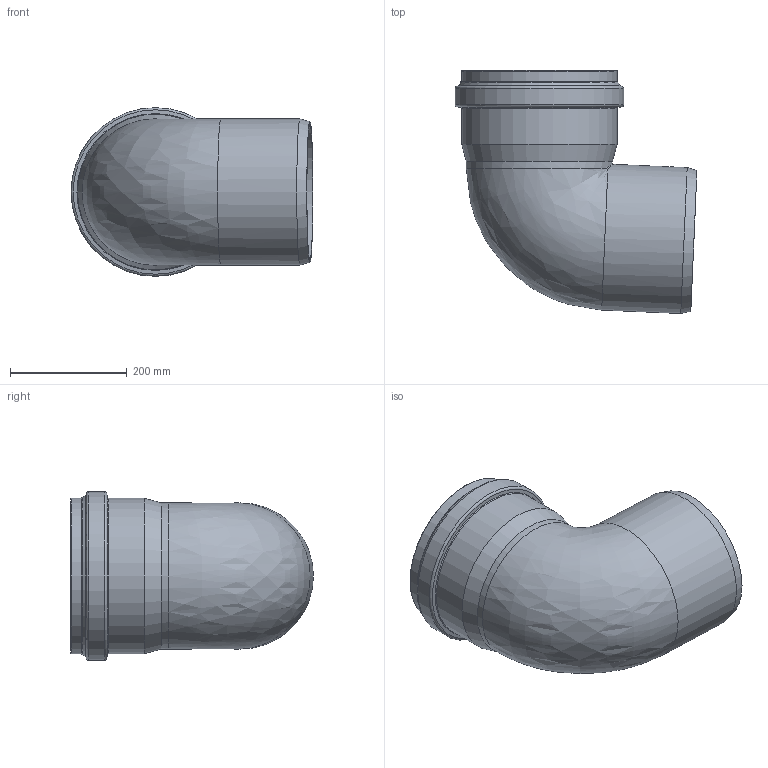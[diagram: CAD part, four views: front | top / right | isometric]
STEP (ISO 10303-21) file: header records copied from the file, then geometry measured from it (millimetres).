
FILE_DESCRIPTION(/* description */ (''),/* implementation_level */ '2;1');
FILE_NAME(/* name */ '771750z.stp',/* time_stamp */ '2026-02-11T08:54:42+01:00',/* author */ ('corinna'),/* organization */ (''),/* preprocessor_version */ 'ST-DEVELOPER v20',/* originating_system */ 'Autodesk Inventor 2024',/* authorisation */ '');
FILE_SCHEMA (('AUTOMOTIVE_DESIGN { 1 0 10303 214 3 1 1 }'));
Length unit declared in the file: millimetre
Products named in the file (1): 771750z
Bounding box: 414.51 x 416.25 x 289 mm (x, y, z)
Volume: 3095347.9 mm3; surface area: 816693.6 mm2
Topology: 1 solids, 1 shells, 42 faces, 110 edges, 71 vertices
Faces by surface type: torus 15, cylinder 11, cone 11, plane 3, bspline 2
Full cylindrical faces by diameter (mm): 234.3 x2, 250.3 x2, 251.7 x1, 252.1 x2, 266.1 x1, 266.5 x1, 274.6 x1, 289 x1
Entity records: 1531 total; most frequent: CARTESIAN_POINT 375, DIRECTION 276, ORIENTED_EDGE 220, AXIS2_PLACEMENT_3D 127, EDGE_CURVE 110, CIRCLE 82, VERTEX_POINT 71, EDGE_LOOP 45
